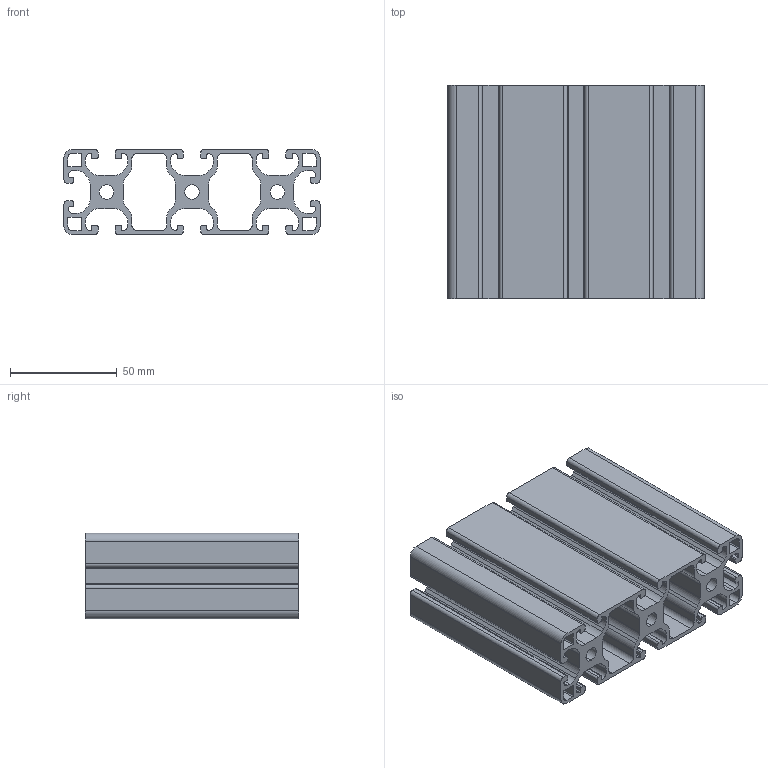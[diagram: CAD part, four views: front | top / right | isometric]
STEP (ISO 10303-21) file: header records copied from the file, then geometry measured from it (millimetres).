
FILE_DESCRIPTION (( 'STEP AP203' ), '1' );
FILE_NAME ('0108P12040L.STEP', '2024-02-28T07:58:18', ( 'Windows-Benutzer' ), ( '' ), 'SwSTEP 2.0', 'SolidWorks 2023', '' );
FILE_SCHEMA (( 'CONFIG_CONTROL_DESIGN' ));
Length unit declared in the file: millimetre
Products named in the file (1): 0108P12040L
Bounding box: 120 x 100 x 40 mm (x, y, z)
Volume: 161291.4 mm3; surface area: 109626.9 mm2
Topology: 1 solids, 1 shells, 304 faces, 906 edges, 604 vertices
Faces by surface type: cylinder 162, plane 142
Entity records: 10427 total; most frequent: DIRECTION 1840, CARTESIAN_POINT 1815, ORIENTED_EDGE 1812, EDGE_CURVE 906, AXIS2_PLACEMENT_3D 629, VERTEX_POINT 604, VECTOR 582, LINE 582
